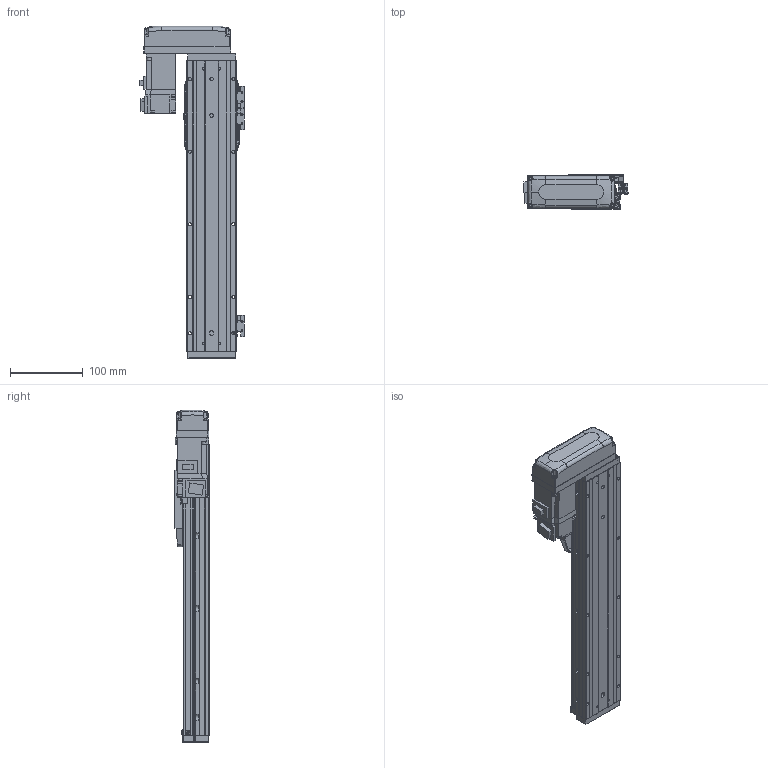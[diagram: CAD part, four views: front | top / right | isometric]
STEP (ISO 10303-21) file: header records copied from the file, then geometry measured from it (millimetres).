
FILE_DESCRIPTION (( 'STEP AP203' ), '1' );
FILE_NAME ('CTHA60-250-BR-M10-C4L.step', '2022-03-19T06:21:37', ( '微软用户' ), ( '微软中国' ), 'SwSTEP 2.0', 'SolidWorks 2020', '' );
FILE_SCHEMA (( 'CONFIG_CONTROL_DESIGN' ));
Length unit declared in the file: millimetre
Products named in the file (18): GBT 70.3-M3℅6; CTHA60-250-BR-M10-C4L; EE_SX911P_R; CTHA60-016; CTHA60-017; HG-KR13（三菱）; CTHA60-021; CTHA60-002; CTHA60-001_400; GBT 70.1-M4×16; CTHA60-031; CTHA60-004; GBT77-2000 M3×3; CTHA60-006-1; CTHA60-005; GBT 70.1-M3℅6; CTHA60-033; GB¨uT 70.2-M3¡Á6_M3¡Á6
Assembly tree (54 placements, depth 2):
  CTHA60-250-BR-M10-C4L
    CTHA60-001_400
    CTHA60-004
    CTHA60-005
    GB¨uT 70.2-M3¡Á6_M3¡Á6  x10
    EE_SX911P_R  x3
    CTHA60-017  x3
    CTHA60-021  x2
    GBT 70.1-M4×16  x10
    GBT77-2000 M3×3  x6
    GBT 70.1-M3℅6  x6
    GBT 70.3-M3℅6  x4
    CTHA60-016  x2
    HG-KR13（三菱）
    CTHA60-002
    CTHA60-031
    CTHA60-006-1
    CTHA60-033
Bounding box: 143.62 x 48 x 457 mm (x, y, z)
Volume: 906261.1 mm3; surface area: 287789 mm2
Topology: 56 solids, 56 shells, 2474 faces, 5925 edges, 3649 vertices
Faces by surface type: plane 1425, cylinder 565, cone 336, torus 92, bspline 32, sphere 24
Entity records: 43719 total; most frequent: CARTESIAN_POINT 8474, DIRECTION 6726, ORIENTED_EDGE 6658, EDGE_CURVE 3329, VECTOR 2358, LINE 2358, AXIS2_PLACEMENT_3D 2184, VERTEX_POINT 2108
